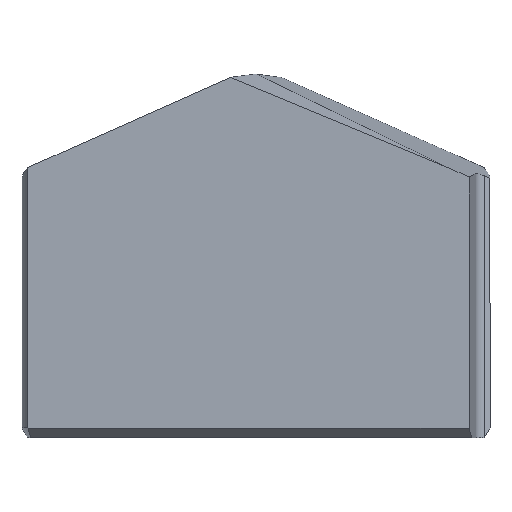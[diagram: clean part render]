
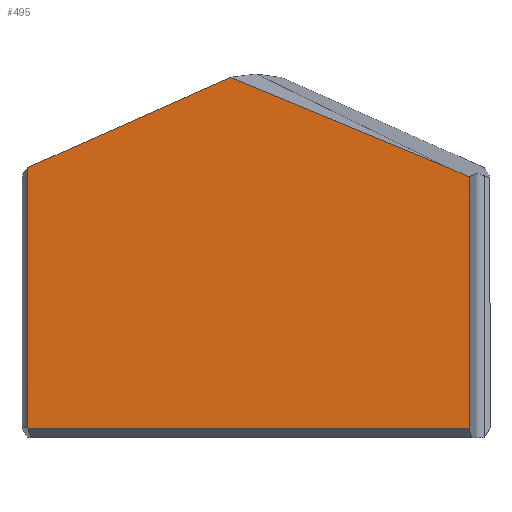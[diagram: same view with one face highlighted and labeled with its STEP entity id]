
A CAD part, top view. The second image highlights one B-rep face of the part: STEP entity #495.
In plain terms, the highlighted planar face has unit normal (0, 0, 1).
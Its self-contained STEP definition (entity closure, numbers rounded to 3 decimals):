
#5 = VERTEX_POINT ( 'NONE', #270 ) ;
#7 = CARTESIAN_POINT ( 'NONE',  ( 0., 0., 3.2 ) ) ;
#19 = CARTESIAN_POINT ( 'NONE',  ( -6.961, 0.296, 3.2 ) ) ;
#20 = LINE ( 'NONE', #546, #129 ) ;
#54 = ORIENTED_EDGE ( 'NONE', *, *, #410, .F. ) ;
#58 = DIRECTION ( 'NONE',  ( -0.924, 0.383, 0. ) ) ;
#70 = B_SPLINE_CURVE_WITH_KNOTS ( 'NONE', 3,
 ( #610, #19, #564, #114 ),
 .UNSPECIFIED., .F., .F.,
 ( 4, 4 ),
 ( 0., 0. ),
 .UNSPECIFIED. ) ;
#80 = DIRECTION ( 'NONE',  ( -0.914, -0.407, 0. ) ) ;
#89 = VECTOR ( 'NONE', #80, 1000. ) ;
#107 = PLANE ( 'NONE',  #120 ) ;
#114 = CARTESIAN_POINT ( 'NONE',  ( -6.957, 0.289, 3.2 ) ) ;
#120 = AXIS2_PLACEMENT_3D ( 'NONE', #7, #456, #402 ) ;
#125 = CARTESIAN_POINT ( 'NONE',  ( 0., 11.35, 3.2 ) ) ;
#128 = DIRECTION ( 'NONE',  ( 1., 0., 0. ) ) ;
#129 = VECTOR ( 'NONE', #58, 1000. ) ;
#156 = EDGE_CURVE ( 'NONE', #362, #163, #630, .T. ) ;
#161 = CARTESIAN_POINT ( 'NONE',  ( -6.964, 8.25, 3.2 ) ) ;
#163 = VERTEX_POINT ( 'NONE', #161 ) ;
#169 = EDGE_CURVE ( 'NONE', #5, #329, #429, .T. ) ;
#172 = FACE_OUTER_BOUND ( 'NONE', #330, .T. ) ;
#212 = EDGE_CURVE ( 'NONE', #396, #5, #258, .T. ) ;
#217 = CARTESIAN_POINT ( 'NONE',  ( 4.034, 9.061, 3.2 ) ) ;
#226 = VERTEX_POINT ( 'NONE', #260 ) ;
#228 = ORIENTED_EDGE ( 'NONE', *, *, #576, .T. ) ;
#258 = LINE ( 'NONE', #458, #380 ) ;
#260 = CARTESIAN_POINT ( 'NONE',  ( 5.829, 8.263, 3.2 ) ) ;
#270 = CARTESIAN_POINT ( 'NONE',  ( 6.507, 0.289, 3.2 ) ) ;
#294 = CARTESIAN_POINT ( 'NONE',  ( -6.957, 0.289, 3.2 ) ) ;
#329 = VERTEX_POINT ( 'NONE', #526 ) ;
#330 = EDGE_LOOP ( 'NONE', ( #591, #228, #618, #54, #530, #345, #475 ) ) ;
#331 = LINE ( 'NONE', #494, #549 ) ;
#344 = VECTOR ( 'NONE', #559, 1000. ) ;
#345 = ORIENTED_EDGE ( 'NONE', *, *, #212, .T. ) ;
#351 = LINE ( 'NONE', #217, #344 ) ;
#362 = VERTEX_POINT ( 'NONE', #587 ) ;
#380 = VECTOR ( 'NONE', #128, 1000. ) ;
#396 = VERTEX_POINT ( 'NONE', #294 ) ;
#402 = DIRECTION ( 'NONE',  ( 1., 0., 0. ) ) ;
#410 = EDGE_CURVE ( 'NONE', #581, #163, #331, .T. ) ;
#429 = LINE ( 'NONE', #524, #573 ) ;
#456 = DIRECTION ( 'NONE',  ( 0., 0., 1. ) ) ;
#458 = CARTESIAN_POINT ( 'NONE',  ( 6.786, 0.289, 3.2 ) ) ;
#462 = CARTESIAN_POINT ( 'NONE',  ( -6.964, 0.3, 3.2 ) ) ;
#463 = DIRECTION ( 'NONE',  ( 0., 1., 0. ) ) ;
#475 = ORIENTED_EDGE ( 'NONE', *, *, #169, .T. ) ;
#494 = CARTESIAN_POINT ( 'NONE',  ( -6.964, 0., 3.2 ) ) ;
#495 = ADVANCED_FACE ( 'NONE', ( #172 ), #107, .T. ) ;
#524 = CARTESIAN_POINT ( 'NONE',  ( 6.507, 0., 3.2 ) ) ;
#526 = CARTESIAN_POINT ( 'NONE',  ( 6.507, 7.961, 3.2 ) ) ;
#530 = ORIENTED_EDGE ( 'NONE', *, *, #569, .T. ) ;
#546 = CARTESIAN_POINT ( 'NONE',  ( 3.776, 9.113, 3.2 ) ) ;
#549 = VECTOR ( 'NONE', #634, 1000. ) ;
#559 = DIRECTION ( 'NONE',  ( -0.914, 0.407, 0. ) ) ;
#564 = CARTESIAN_POINT ( 'NONE',  ( -6.959, 0.292, 3.2 ) ) ;
#569 = EDGE_CURVE ( 'NONE', #581, #396, #70, .T. ) ;
#573 = VECTOR ( 'NONE', #463, 1000. ) ;
#576 = EDGE_CURVE ( 'NONE', #226, #362, #20, .T. ) ;
#581 = VERTEX_POINT ( 'NONE', #462 ) ;
#587 = CARTESIAN_POINT ( 'NONE',  ( -0.782, 11.002, 3.2 ) ) ;
#591 = ORIENTED_EDGE ( 'NONE', *, *, #616, .T. ) ;
#610 = CARTESIAN_POINT ( 'NONE',  ( -6.964, 0.3, 3.2 ) ) ;
#616 = EDGE_CURVE ( 'NONE', #329, #226, #351, .T. ) ;
#618 = ORIENTED_EDGE ( 'NONE', *, *, #156, .T. ) ;
#630 = LINE ( 'NONE', #125, #89 ) ;
#634 = DIRECTION ( 'NONE',  ( 0., 1., 0. ) ) ;
